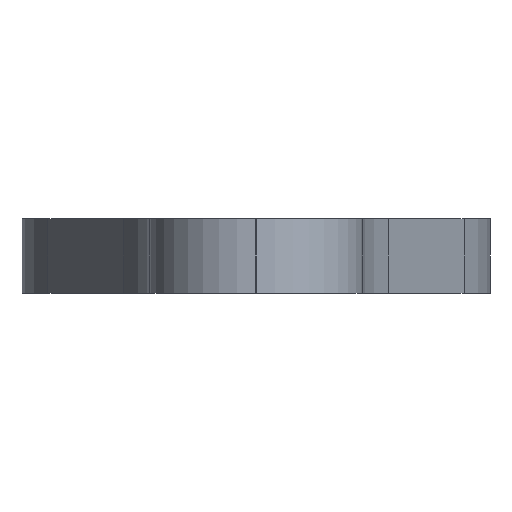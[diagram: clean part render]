
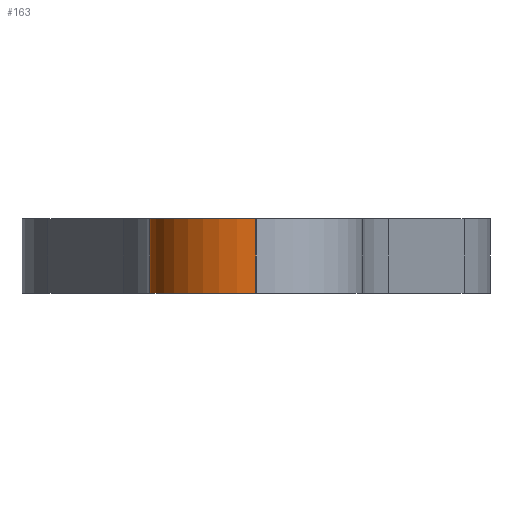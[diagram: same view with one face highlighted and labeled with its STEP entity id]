
A CAD part, front view. The second image highlights one B-rep face of the part: STEP entity #163.
In plain terms, the highlighted cylindrical face has radius 4.99 mm (diameter 9.98 mm), a partial arc.
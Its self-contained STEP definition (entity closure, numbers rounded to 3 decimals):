
#79 = ORIENTED_EDGE ( 'NONE', *, *, #118, .T. ) ;
#92 = VERTEX_POINT ( 'NONE', #655 ) ;
#112 = EDGE_LOOP ( 'NONE', ( #120, #161, #122, #79 ) ) ;
#115 = VERTEX_POINT ( 'NONE', #784 ) ;
#118 = EDGE_CURVE ( 'NONE', #92, #115, #705, .T. ) ;
#120 = ORIENTED_EDGE ( 'NONE', *, *, #121, .T. ) ;
#121 = EDGE_CURVE ( 'NONE', #115, #124, #706, .T. ) ;
#122 = ORIENTED_EDGE ( 'NONE', *, *, #123, .F. ) ;
#123 = EDGE_CURVE ( 'NONE', #92, #159, #682, .T. ) ;
#124 = VERTEX_POINT ( 'NONE', #686 ) ;
#159 = VERTEX_POINT ( 'NONE', #762 ) ;
#161 = ORIENTED_EDGE ( 'NONE', *, *, #162, .F. ) ;
#162 = EDGE_CURVE ( 'NONE', #159, #124, #752, .T. ) ;
#163 = ADVANCED_FACE ( 'NONE', ( #748 ), #747, .T. ) ;
#655 = CARTESIAN_POINT ( 'NONE',  ( -5., 42.49, 3.5 ) ) ;
#676 = DIRECTION ( 'NONE',  ( 0., 0., -1. ) ) ;
#677 = AXIS2_PLACEMENT_3D ( 'NONE', #679, #678, #680 ) ;
#678 = DIRECTION ( 'NONE',  ( 0., 0., 1. ) ) ;
#679 = CARTESIAN_POINT ( 'NONE',  ( -0.01, 42.49, 0. ) ) ;
#680 = DIRECTION ( 'NONE',  ( 1., 0., 0. ) ) ;
#682 = CIRCLE ( 'NONE', #683, 4.99 ) ;
#683 = AXIS2_PLACEMENT_3D ( 'NONE', #685, #684, #687 ) ;
#684 = DIRECTION ( 'NONE',  ( 0., 0., 1. ) ) ;
#685 = CARTESIAN_POINT ( 'NONE',  ( -0.01, 42.49, 3.5 ) ) ;
#686 = CARTESIAN_POINT ( 'NONE',  ( -0.01, 37.5, 0. ) ) ;
#687 = DIRECTION ( 'NONE',  ( 1., 0., 0. ) ) ;
#704 = CARTESIAN_POINT ( 'NONE',  ( -5., 42.49, 3.5 ) ) ;
#705 = LINE ( 'NONE', #704, #774 ) ;
#706 = CIRCLE ( 'NONE', #677, 4.99 ) ;
#741 = DIRECTION ( 'NONE',  ( -1., 0., 0. ) ) ;
#742 = DIRECTION ( 'NONE',  ( 0., 0., -1. ) ) ;
#743 = AXIS2_PLACEMENT_3D ( 'NONE', #746, #742, #741 ) ;
#746 = CARTESIAN_POINT ( 'NONE',  ( -0.01, 42.49, 3.5 ) ) ;
#747 = CYLINDRICAL_SURFACE ( 'NONE', #743, 4.99 ) ;
#748 = FACE_OUTER_BOUND ( 'NONE', #112, .T. ) ;
#749 = DIRECTION ( 'NONE',  ( 0., 0., -1. ) ) ;
#750 = VECTOR ( 'NONE', #749, 1000. ) ;
#751 = CARTESIAN_POINT ( 'NONE',  ( -0.01, 37.5, 3.5 ) ) ;
#752 = LINE ( 'NONE', #751, #750 ) ;
#762 = CARTESIAN_POINT ( 'NONE',  ( -0.01, 37.5, 3.5 ) ) ;
#774 = VECTOR ( 'NONE', #676, 1000. ) ;
#784 = CARTESIAN_POINT ( 'NONE',  ( -5., 42.49, 0. ) ) ;
